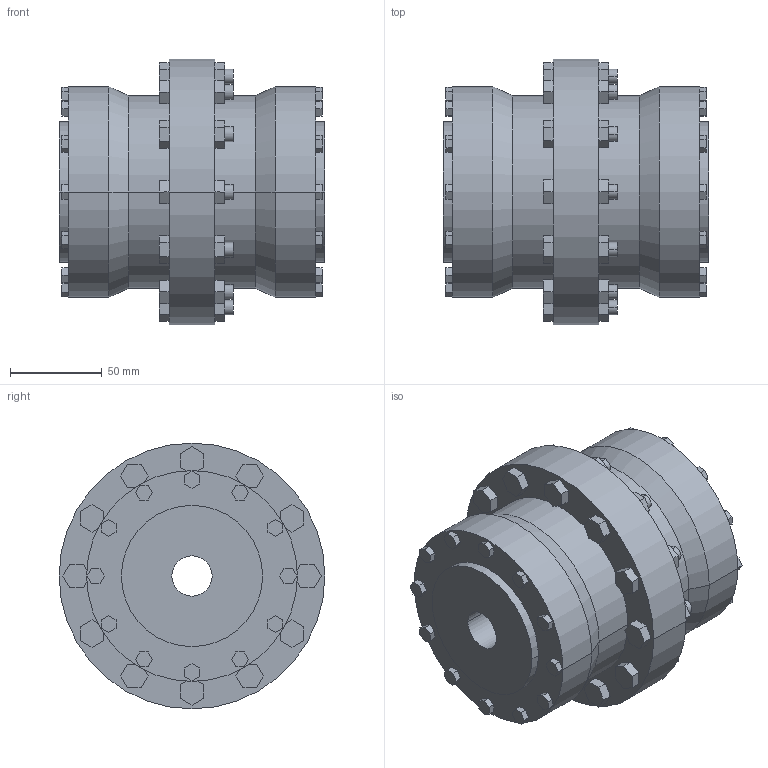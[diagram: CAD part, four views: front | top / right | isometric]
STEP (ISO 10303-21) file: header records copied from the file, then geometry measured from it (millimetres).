
FILE_DESCRIPTION((''),'2;1');
FILE_NAME('A18977700-0_ASM','2018-09-26T',('AB_Roschiwal'),('RENK AG'),'PRO/ENGINEER BY PARAMETRIC TECHNOLOGY CORPORATION, 2015440','PRO/ENGINEER BY PARAMETRIC TECHNOLOGY CORPORATION, 2015440','');
FILE_SCHEMA(('CONFIG_CONTROL_DESIGN'));
Length unit declared in the file: millimetre
Products named in the file (3): SBK48_GEHAEUSE; SBK48_NABE; A18977700-0_ASM
Assembly tree (3 placements, depth 2):
  A18977700-0_ASM
    SBK48_GEHAEUSE
    SBK48_NABE  x2
Bounding box: 145 x 145 x 145 mm (x, y, z)
Volume: 1303024.6 mm3; surface area: 203329.5 mm2
Topology: 3 solids, 3 shells, 422 faces, 1036 edges, 688 vertices
Faces by surface type: plane 362, cylinder 56, cone 4
Entity records: 12052 total; most frequent: CARTESIAN_POINT 2100, ORIENTED_EDGE 2024, DIRECTION 1940, EDGE_CURVE 1012, VECTOR 916, LINE 916, VERTEX_POINT 672, AXIS2_PLACEMENT_3D 512
